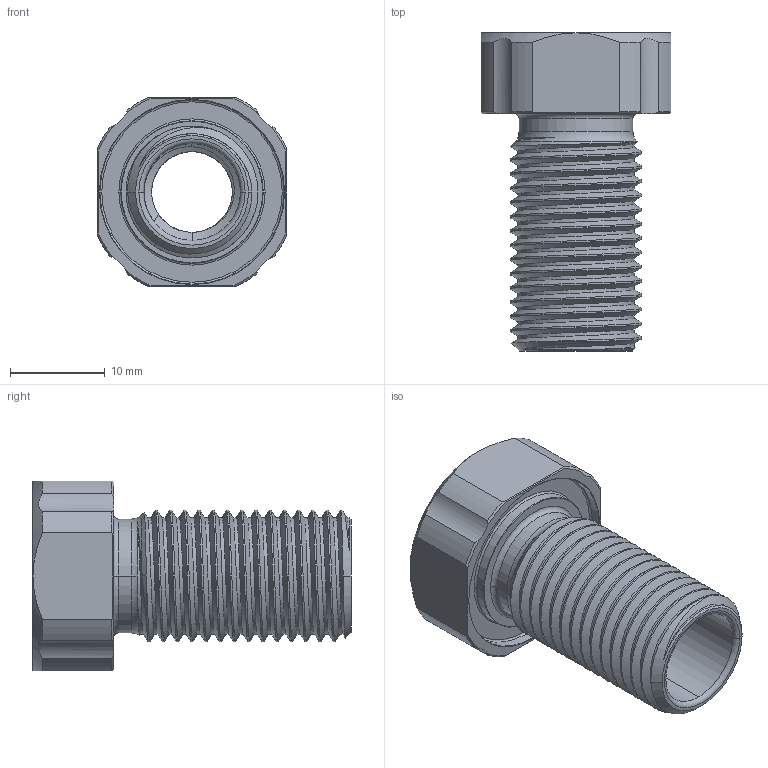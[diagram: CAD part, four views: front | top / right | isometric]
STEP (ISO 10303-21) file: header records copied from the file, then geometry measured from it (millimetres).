
FILE_DESCRIPTION (( 'STEP AP214' ), '1' );
FILE_NAME ('BR-102512_RevB.STEP', '2024-09-17T00:04:04', ( '' ), ( '' ), 'SwSTEP 2.0', 'SolidWorks 2024', '' );
FILE_SCHEMA (( 'AUTOMOTIVE_DESIGN' ));
Length unit declared in the file: millimetre
Products named in the file (1): BR-102512_RevB
Bounding box: 20 x 33.5 x 20 mm (x, y, z)
Volume: 2370 mm3; surface area: 4145.8 mm2
Topology: 1 solids, 1 shells, 124 faces, 327 edges, 209 vertices
Faces by surface type: cylinder 65, cone 29, plane 14, torus 10, bspline 6
Entity records: 9670 total; most frequent: CARTESIAN_POINT 6879, ORIENTED_EDGE 654, DIRECTION 515, EDGE_CURVE 327, AXIS2_PLACEMENT_3D 212, VERTEX_POINT 209, EDGE_LOOP 130, ADVANCED_FACE 124
